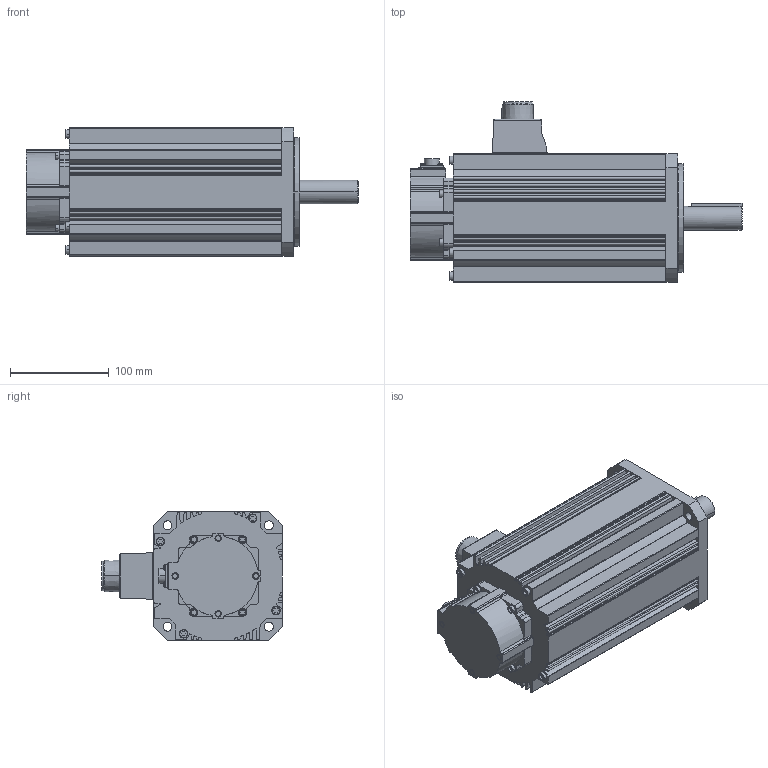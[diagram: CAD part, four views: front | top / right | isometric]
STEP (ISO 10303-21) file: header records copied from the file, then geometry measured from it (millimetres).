
FILE_DESCRIPTION( ( '' ), '1' );
FILE_NAME( '//expscmdclustefs.cadenas.external/client_exchange/iodir/jobs/output/wkb64902076_no0/STEP/MSME504G1H_1__2_03.stp', '2013-10-30T12:33:32', ( '' ), ( '' ), ' ', ' ', ' ' );
FILE_SCHEMA( ( 'CONFIG_CONTROL_DESIGN' ) );
Length unit declared in the file: millimetre
Products named in the file (1): 1
Bounding box: 336 x 183 x 130 mm (x, y, z)
Volume: 3726365.5 mm3; surface area: 219593.9 mm2
Topology: 1 solids, 1 shells, 623 faces, 1673 edges, 1104 vertices
Faces by surface type: plane 281, cylinder 270, cone 36, torus 32, sphere 4
Entity records: 20059 total; most frequent: CARTESIAN_POINT 3767, DIRECTION 3577, ORIENTED_EDGE 3346, EDGE_CURVE 1673, AXIS2_PLACEMENT_3D 1316, VERTEX_POINT 1104, LINE 945, VECTOR 945
